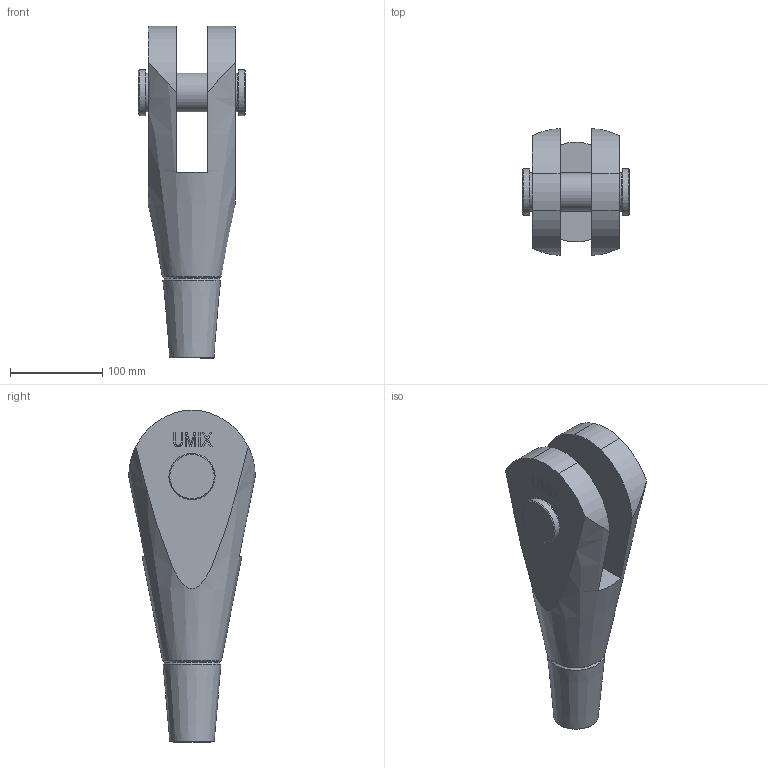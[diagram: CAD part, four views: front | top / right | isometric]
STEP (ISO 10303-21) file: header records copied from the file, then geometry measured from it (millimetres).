
FILE_DESCRIPTION(/* description */ (''),/* implementation_level */ '2;1');
FILE_NAME(/* name */ 'C:\Vault_WS\Designs\520-042-GAK.stp',/* time_stamp */ '2020-06-25T07:55:27+02:00',/* author */ ('schwarz'),/* organization */ (''),/* preprocessor_version */ 'ST-DEVELOPER v16.1',/* originating_system */ 'Autodesk Inventor 2016',/* authorisation */ '');
FILE_SCHEMA (('AUTOMOTIVE_DESIGN { 1 0 10303 214 3 1 1 }'));
Length unit declared in the file: centimetre
Products named in the file (1): 520-042-GAK-KMU-Kunde
Bounding box: 116.44 x 136.98 x 359 mm (x, y, z)
Volume: 1839083 mm3; surface area: 175319.5 mm2
Topology: 2 solids, 4 shells, 186 faces, 483 edges, 320 vertices
Faces by surface type: plane 136, bspline 21, cylinder 16, cone 13
Full cylindrical faces by diameter (mm): 10.106 x1, 12 x1, 13.5 x1, 23.12 x1, 42 x1, 44 x1, 45 x2, 50 x2
Entity records: 5777 total; most frequent: CARTESIAN_POINT 1272, ORIENTED_EDGE 900, DIRECTION 768, EDGE_CURVE 450, LINE 348, VECTOR 348, VERTEX_POINT 310, EDGE_LOOP 230
